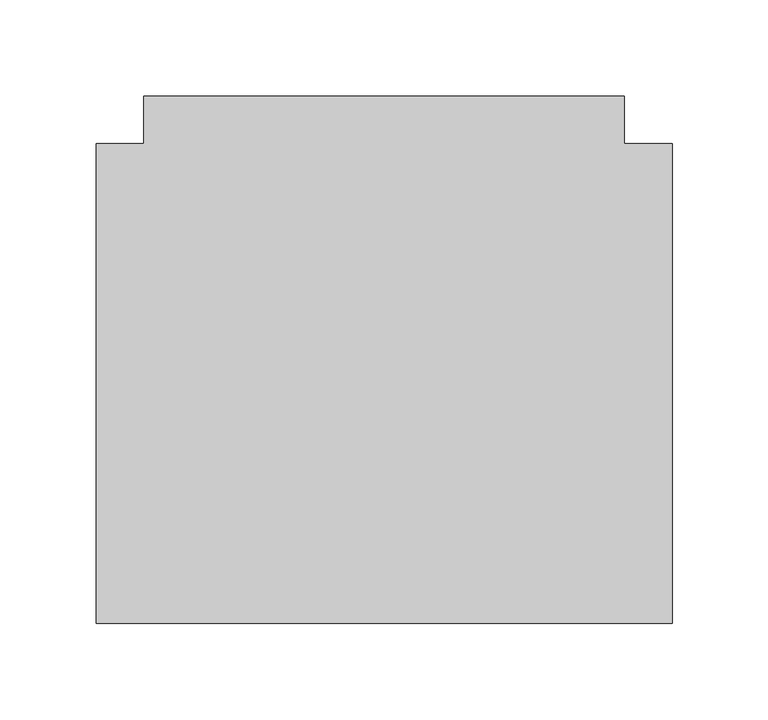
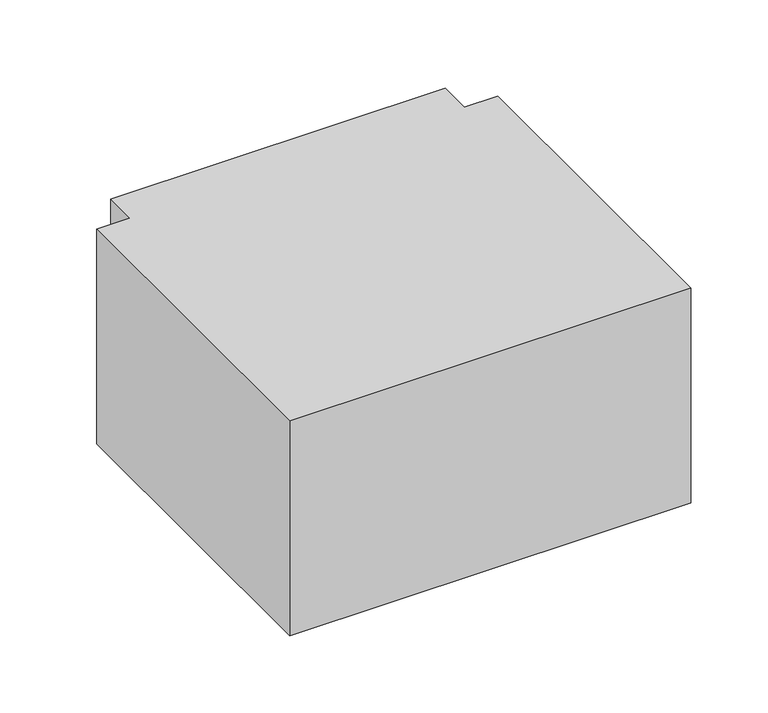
"""IFC4 building model written with IfcOpenShell, lengths in millimetres: duct fitting geometry, M_Te rectangular : Estándar."""

from ifc_helpers import new_model, si_unit, frame, origin, place, context, project, spatial, polyline, outline, extrude, source, transform, mapped, element, save


def duct_fitting_ec6b8ce7(model_context):
    return source(origin(), model_context, "Body", "SweptSolid", [
        extrude(outline(polyline([(-150.0, 125.0), (-125.0, 125.0), (-125.0, 150.0), (125.0, 150.0), (125.0, 125.0), (150.0, 125.0), (150.0, -125.0), (-150.0, -125.0), (-150.0, 125.0)])), frame((0.0, 0.0, -85.0), z_axis=(0.0, 0.0, 1.0), x_axis=(1.0, 0.0, 0.0)), (0.0, 0.0, 1.0), 170.0),
    ])


if __name__ == "__main__":
    model = new_model("IFC4")
    model_context = context("Model", 3, world=origin())
    ifc_project = project(units=[si_unit("LENGTHUNIT", "METRE", prefix="MILLI")], contexts=[model_context])
    site = spatial("IfcSite", under=ifc_project)
    building = spatial("IfcBuilding", under=site)
    placement = place(None, origin())
    duct_fitting_shape = duct_fitting_ec6b8ce7(model_context)
    element("IfcDuctFitting", 1, ObjectType="M_Te rectangular : Estándar", at=placement, inside=building, context=model_context, shape_type="MappedRepresentation", body=[
        mapped(duct_fitting_shape, transform((0.0, 0.0, 0.0), x_axis=(1.0, 0.0, 0.0), y_axis=(0.0, 1.0, 0.0), z_axis=(0.0, 0.0, 1.0))),
    ])
    save(model, "model.ifc")
